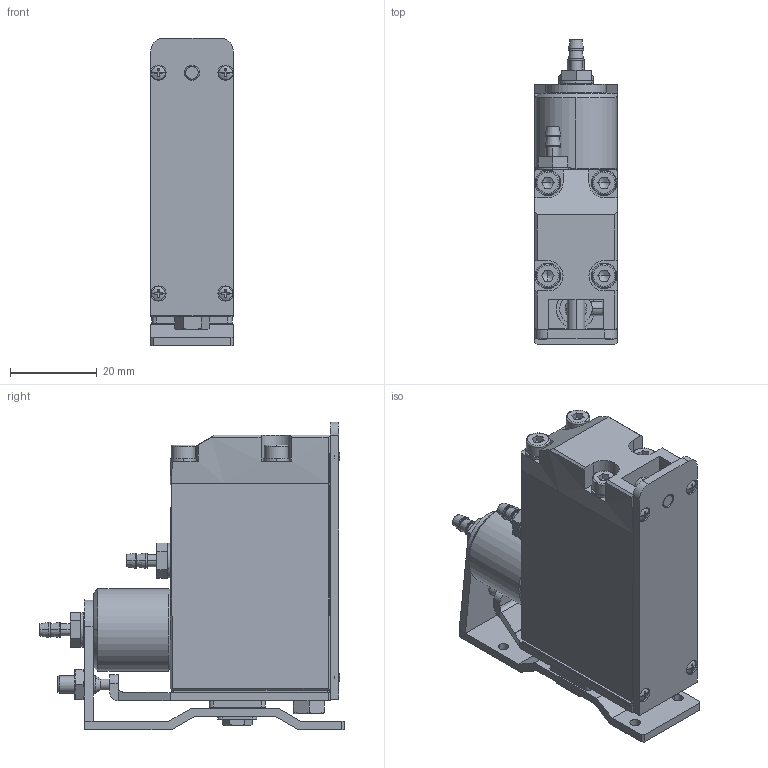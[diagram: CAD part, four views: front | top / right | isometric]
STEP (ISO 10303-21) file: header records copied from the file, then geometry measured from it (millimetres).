
FILE_DESCRIPTION (( 'STEP AP214' ), '1' );
FILE_NAME ('GT-NT03R.STEP', '2019-11-27T06:01:43', ( '微软用户' ), ( '微软中国' ), 'SwSTEP 2.0', 'SolidWorks 2016', '' );
FILE_SCHEMA (( 'AUTOMOTIVE_DESIGN' ));
Length unit declared in the file: millimetre
Products named in the file (1): GT-NT03R
Bounding box: 19 x 70.3 x 71.1 mm (x, y, z)
Surface area: 23929.8 mm2 (no closed solid volume)
Topology: 0 solids, 121 shells, 1074 faces, 2837 edges, 1933 vertices
Faces by surface type: plane 488, cylinder 329, bspline 135, cone 90, torus 24, sphere 8
Entity records: 50565 total; most frequent: CARTESIAN_POINT 17386, ORIENTED_EDGE 5128, DIRECTION 4860, EDGE_CURVE 2797, VERTEX_POINT 1933, AXIS2_PLACEMENT_3D 1836, EDGE_LOOP 1213, LINE 1188
